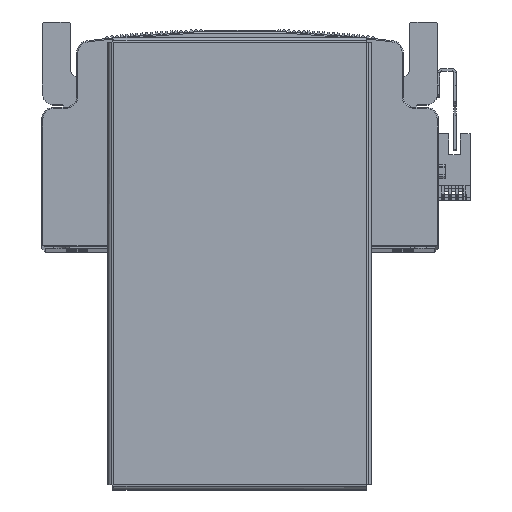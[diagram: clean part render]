
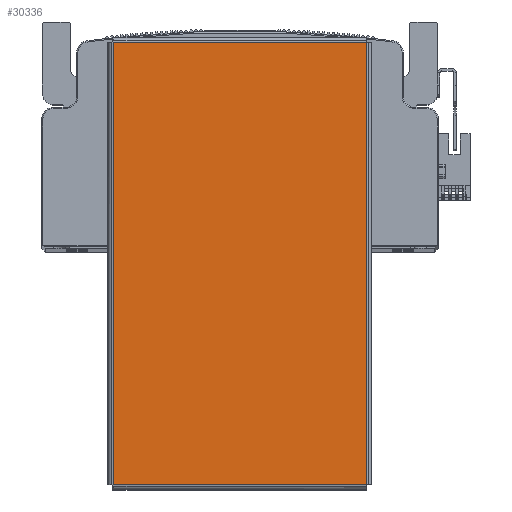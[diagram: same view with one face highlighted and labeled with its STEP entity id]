
A CAD part, top view. The second image highlights one B-rep face of the part: STEP entity #30336.
In plain terms, the highlighted planar face has unit normal (0, 0, 1) as drawn and (0, -1, 0) by its records, which use the part's own axes.
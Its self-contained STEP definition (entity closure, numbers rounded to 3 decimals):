
#2424 = ORIENTED_EDGE ( 'NONE', *, *, #52472, .T. ) ;
#2425 = ORIENTED_EDGE ( 'NONE', *, *, #52501, .T. ) ;
#2467 = ORIENTED_EDGE ( 'NONE', *, *, #52438, .T. ) ;
#2472 = ORIENTED_EDGE ( 'NONE', *, *, #52460, .T. ) ;
#3388 = DIRECTION ( 'NONE',  ( 0., 0., -1. ) ) ;
#3413 = CARTESIAN_POINT ( 'NONE',  ( -94.763, -1.5, 54.393 ) ) ;
#3480 = CARTESIAN_POINT ( 'NONE',  ( 94.793, -1.5, 54.363 ) ) ;
#3482 = DIRECTION ( 'NONE',  ( -1., 0., 0. ) ) ;
#3504 = DIRECTION ( 'NONE',  ( 0., 0., 1. ) ) ;
#3514 = CARTESIAN_POINT ( 'NONE',  ( 94.763, -1.5, -54.393 ) ) ;
#3620 = DIRECTION ( 'NONE',  ( 1., 0., 0. ) ) ;
#3621 = CARTESIAN_POINT ( 'NONE',  ( -94.793, -1.5, -54.363 ) ) ;
#9654 = CARTESIAN_POINT ( 'NONE',  ( 94.763, -1.5, -54.363 ) ) ;
#9674 = CARTESIAN_POINT ( 'NONE',  ( -94.763, -1.5, -54.363 ) ) ;
#9711 = CARTESIAN_POINT ( 'NONE',  ( 94.763, -1.5, 54.363 ) ) ;
#9713 = CARTESIAN_POINT ( 'NONE',  ( -94.763, -1.5, 54.363 ) ) ;
#12767 = LINE ( 'NONE', #3480, #12796 ) ;
#12787 = VECTOR ( 'NONE', #3504, 1000. ) ;
#12796 = VECTOR ( 'NONE', #3482, 1000. ) ;
#12825 = VECTOR ( 'NONE', #3388, 1000. ) ;
#12829 = LINE ( 'NONE', #3514, #12787 ) ;
#12847 = LINE ( 'NONE', #3413, #12825 ) ;
#12923 = LINE ( 'NONE', #3621, #12929 ) ;
#12929 = VECTOR ( 'NONE', #3620, 1000. ) ;
#29809 = FACE_OUTER_BOUND ( 'NONE', #66869, .T. ) ;
#30336 = ADVANCED_FACE ( 'NONE', ( #29809 ), #41370, .F. ) ;
#41370 = PLANE ( 'NONE',  #72144 ) ;
#41376 = CARTESIAN_POINT ( 'NONE',  ( 0., -1.5, 0. ) ) ;
#41380 = DIRECTION ( 'NONE',  ( 0., 0., 1. ) ) ;
#41405 = DIRECTION ( 'NONE',  ( 0., 1., 0. ) ) ;
#50591 = VERTEX_POINT ( 'NONE', #9711 ) ;
#50601 = VERTEX_POINT ( 'NONE', #9713 ) ;
#50612 = VERTEX_POINT ( 'NONE', #9674 ) ;
#50627 = VERTEX_POINT ( 'NONE', #9654 ) ;
#52438 = EDGE_CURVE ( 'NONE', #50601, #50612, #12847, .T. ) ;
#52460 = EDGE_CURVE ( 'NONE', #50591, #50601, #12767, .T. ) ;
#52472 = EDGE_CURVE ( 'NONE', #50627, #50591, #12829, .T. ) ;
#52501 = EDGE_CURVE ( 'NONE', #50612, #50627, #12923, .T. ) ;
#66869 = EDGE_LOOP ( 'NONE', ( #2472, #2467, #2425, #2424 ) ) ;
#72144 = AXIS2_PLACEMENT_3D ( 'NONE', #41376, #41405, #41380 ) ;
